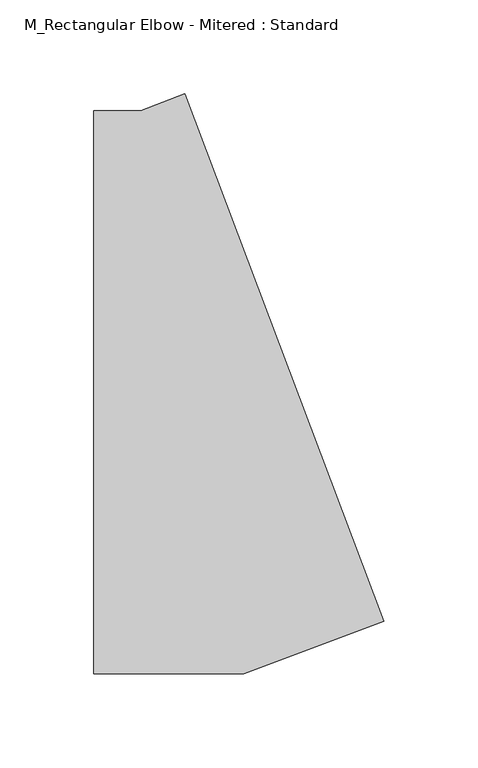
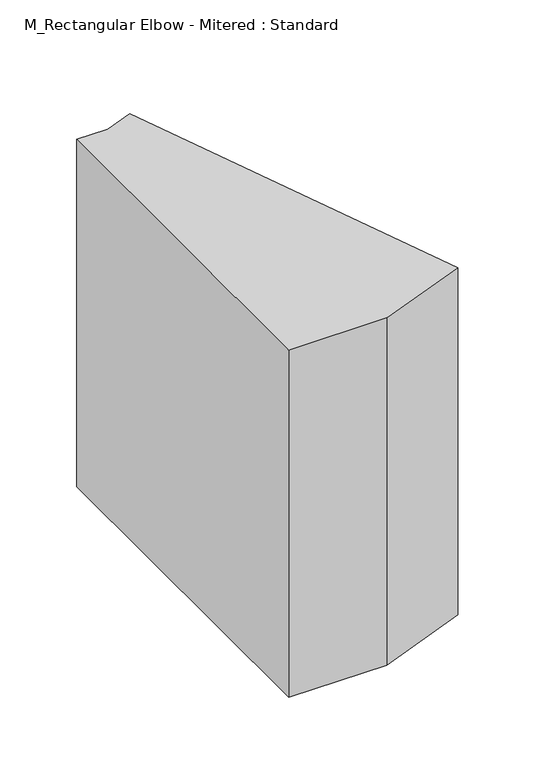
"""IFC4 building model written with IfcOpenShell, lengths in millimetres: duct fitting geometry, M_Rectangular Elbow - Mitered : Standard."""

from ifc_helpers import new_model, si_unit, frame, origin, place, context, project, spatial, polyline, outline, extrude, source, transform, mapped, element, save


def m_rectangular_elbow_mitered_standard_7bd1a033(model_context):
    return source(origin(), model_context, "Body", "SweptSolid", [
        extrude(outline(polyline([(-52.3953793, -150.0), (-52.3953793, 150.0), (-27.3953793, 150.0), (-4.0093373, 158.8370265), (102.0349808, -121.795478), (27.3953793, -150.0), (-52.3953793, -150.0)])), frame((0.0, 0.0, -150.0), z_axis=(0.0, 0.0, 1.0), x_axis=(1.0, 0.0, 0.0)), (0.0, 0.0, 1.0), 300.0),
        extrude(outline(polyline([(-52.3953793, -150.0), (-52.3953793, 150.0), (-27.3953793, 150.0), (-4.0093373, 158.8370265), (102.0349808, -121.795478), (27.3953793, -150.0), (-52.3953793, -150.0)])), frame((0.0, 0.0, -150.0), z_axis=(0.0, 0.0, 1.0), x_axis=(1.0, 0.0, 0.0)), (0.0, 0.0, 1.0), 300.0),
        extrude(outline(polyline([(-52.3953793, -150.0), (-52.3953793, 150.0), (-27.3953793, 150.0), (-4.0093373, 158.8370265), (102.0349808, -121.795478), (27.3953793, -150.0), (-52.3953793, -150.0)])), frame((0.0, 0.0, -150.0), z_axis=(0.0, 0.0, 1.0), x_axis=(1.0, 0.0, 0.0)), (0.0, 0.0, 1.0), 300.0),
    ])


if __name__ == "__main__":
    model = new_model("IFC4")
    model_context = context("Model", 3, world=origin())
    ifc_project = project(units=[si_unit("LENGTHUNIT", "METRE", prefix="MILLI")], contexts=[model_context])
    site = spatial("IfcSite", under=ifc_project)
    building = spatial("IfcBuilding", under=site)
    placement = place(None, origin())
    m_rectangular_elbow_mitered_standard_shape = m_rectangular_elbow_mitered_standard_7bd1a033(model_context)
    element("IfcDuctFitting", 1, ObjectType="M_Rectangular Elbow - Mitered : Standard", at=placement, inside=building, context=model_context, shape_type="MappedRepresentation", body=[
        mapped(m_rectangular_elbow_mitered_standard_shape, transform((0.0, 0.0, 0.0), x_axis=(1.0, 0.0, 0.0), y_axis=(0.0, 1.0, 0.0), z_axis=(0.0, 0.0, 1.0))),
    ])
    save(model, "model.ifc")
